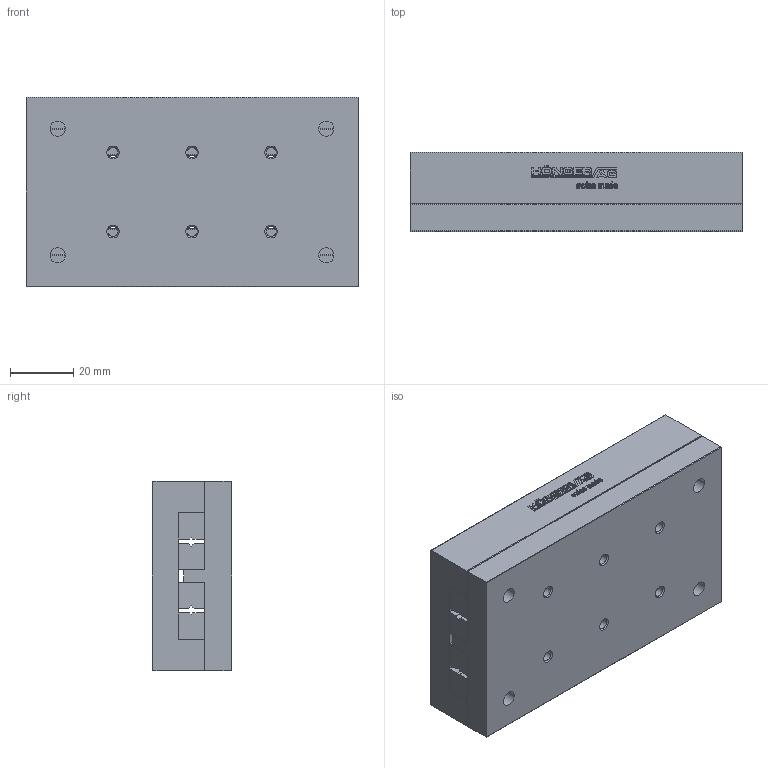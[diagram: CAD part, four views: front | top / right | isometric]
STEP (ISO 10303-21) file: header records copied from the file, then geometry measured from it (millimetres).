
FILE_DESCRIPTION(/* description */ ('STEP AP214'),/* implementation_level */ '2;1');
FILE_NAME(/* name */ 'NKL 3-105(0)',/* time_stamp */ '2025-04-23T07:59:41+02:00',/* author */ ('License CC BY-ND 4.0'),/* organization */ ('CADENAS'),/* preprocessor_version */ 'ST-DEVELOPER v19.3',/* originating_system */ 'PARTsolutions',/* authorisation */ ' ');
FILE_SCHEMA (('AUTOMOTIVE_DESIGN {1 0 10303 214 3 1 1}'));
Length unit declared in the file: millimetre
Products named in the file (3): NKL 3-105(0); NKL 3-105_1; NKL 3-105_2
Assembly tree (2 placements, depth 2):
  NKL 3-105(0)
    NKL 3-105_1
    NKL 3-105_2
Bounding box: 105 x 25 x 60 mm (x, y, z)
Volume: 151371.5 mm3; surface area: 44990 mm2
Topology: 2 solids, 2 shells, 623 faces, 1724 edges, 1132 vertices
Faces by surface type: cylinder 312, plane 287, cone 24
Full cylindrical faces by diameter (mm): 3.242 x12, 4.8 x4, 8 x4
Entity records: 19901 total; most frequent: DIRECTION 3580, CARTESIAN_POINT 3426, ORIENTED_EDGE 3348, EDGE_CURVE 1674, AXIS2_PLACEMENT_3D 1280, VERTEX_POINT 1126, LINE 1020, VECTOR 1020
